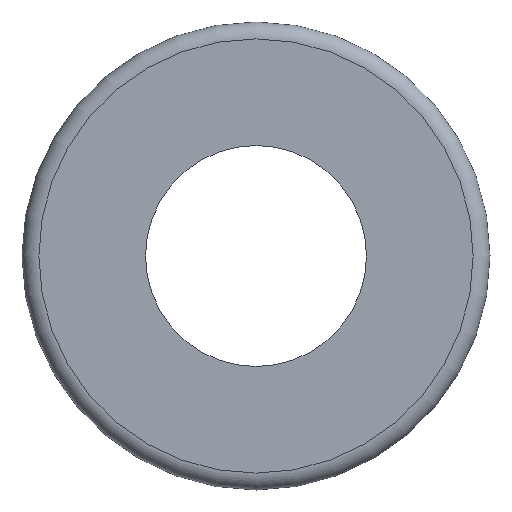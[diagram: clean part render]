
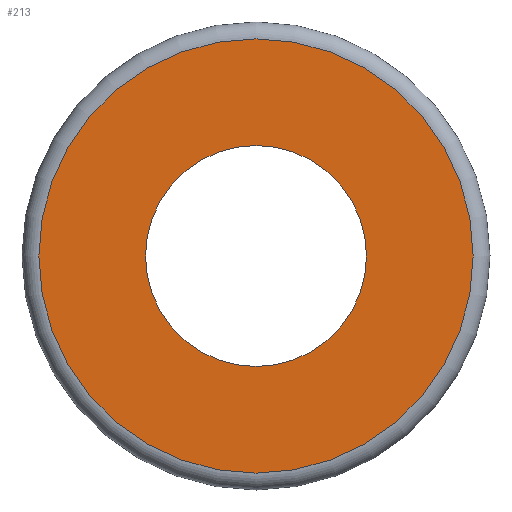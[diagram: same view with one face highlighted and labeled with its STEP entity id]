
A CAD part, left-side view. The second image highlights one B-rep face of the part: STEP entity #213.
In plain terms, the highlighted planar face has unit normal (-1, 0, 0).
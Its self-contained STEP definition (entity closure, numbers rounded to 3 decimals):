
#94 = TOROIDAL_SURFACE('',#95,11.6,0.9);
#95 = AXIS2_PLACEMENT_3D('',#96,#97,#98);
#96 = CARTESIAN_POINT('',(45.1,2.,112.));
#97 = DIRECTION('',(-1.,0.,0.));
#98 = DIRECTION('',(0.,0.,-1.));
#110 = VERTEX_POINT('',#111);
#111 = CARTESIAN_POINT('',(44.2,2.,100.4));
#133 = EDGE_CURVE('',#110,#110,#134,.T.);
#134 = SURFACE_CURVE('',#135,(#140,#147),.PCURVE_S1.);
#135 = CIRCLE('',#136,11.6);
#136 = AXIS2_PLACEMENT_3D('',#137,#138,#139);
#137 = CARTESIAN_POINT('',(44.2,2.,112.));
#138 = DIRECTION('',(1.,-0.,0.));
#139 = DIRECTION('',(0.,0.,-1.));
#140 = PCURVE('',#94,#141);
#141 = DEFINITIONAL_REPRESENTATION('',(#142),#146);
#142 = LINE('',#143,#144);
#143 = CARTESIAN_POINT('',(-0.,1.571));
#144 = VECTOR('',#145,1.);
#145 = DIRECTION('',(-1.,0.));
#146 = ( GEOMETRIC_REPRESENTATION_CONTEXT(2) 
PARAMETRIC_REPRESENTATION_CONTEXT() REPRESENTATION_CONTEXT('2D SPACE',''
  ) );
#147 = PCURVE('',#148,#153);
#148 = PLANE('',#149);
#149 = AXIS2_PLACEMENT_3D('',#150,#151,#152);
#150 = CARTESIAN_POINT('',(44.2,2.,112.));
#151 = DIRECTION('',(1.,0.,0.));
#152 = DIRECTION('',(0.,0.,-1.));
#153 = DEFINITIONAL_REPRESENTATION('',(#154),#158);
#154 = CIRCLE('',#155,11.6);
#155 = AXIS2_PLACEMENT_2D('',#156,#157);
#156 = CARTESIAN_POINT('',(0.,0.));
#157 = DIRECTION('',(1.,0.));
#158 = ( GEOMETRIC_REPRESENTATION_CONTEXT(2) 
PARAMETRIC_REPRESENTATION_CONTEXT() REPRESENTATION_CONTEXT('2D SPACE',''
  ) );
#213 = ADVANCED_FACE('',(#214,#217),#148,.F.);
#214 = FACE_BOUND('',#215,.F.);
#215 = EDGE_LOOP('',(#216));
#216 = ORIENTED_EDGE('',*,*,#133,.T.);
#217 = FACE_BOUND('',#218,.F.);
#218 = EDGE_LOOP('',(#219));
#219 = ORIENTED_EDGE('',*,*,#220,.F.);
#220 = EDGE_CURVE('',#221,#221,#223,.T.);
#221 = VERTEX_POINT('',#222);
#222 = CARTESIAN_POINT('',(44.2,2.,106.1));
#223 = SURFACE_CURVE('',#224,(#229,#236),.PCURVE_S1.);
#224 = CIRCLE('',#225,5.9);
#225 = AXIS2_PLACEMENT_3D('',#226,#227,#228);
#226 = CARTESIAN_POINT('',(44.2,2.,112.));
#227 = DIRECTION('',(1.,0.,0.));
#228 = DIRECTION('',(0.,0.,-1.));
#229 = PCURVE('',#148,#230);
#230 = DEFINITIONAL_REPRESENTATION('',(#231),#235);
#231 = CIRCLE('',#232,5.9);
#232 = AXIS2_PLACEMENT_2D('',#233,#234);
#233 = CARTESIAN_POINT('',(0.,0.));
#234 = DIRECTION('',(1.,0.));
#235 = ( GEOMETRIC_REPRESENTATION_CONTEXT(2) 
PARAMETRIC_REPRESENTATION_CONTEXT() REPRESENTATION_CONTEXT('2D SPACE',''
  ) );
#236 = PCURVE('',#237,#242);
#237 = CYLINDRICAL_SURFACE('',#238,5.9);
#238 = AXIS2_PLACEMENT_3D('',#239,#240,#241);
#239 = CARTESIAN_POINT('',(40.,2.,112.));
#240 = DIRECTION('',(1.,0.,0.));
#241 = DIRECTION('',(0.,0.,-1.));
#242 = DEFINITIONAL_REPRESENTATION('',(#243),#247);
#243 = LINE('',#244,#245);
#244 = CARTESIAN_POINT('',(0.,4.2));
#245 = VECTOR('',#246,1.);
#246 = DIRECTION('',(1.,0.));
#247 = ( GEOMETRIC_REPRESENTATION_CONTEXT(2) 
PARAMETRIC_REPRESENTATION_CONTEXT() REPRESENTATION_CONTEXT('2D SPACE',''
  ) );
